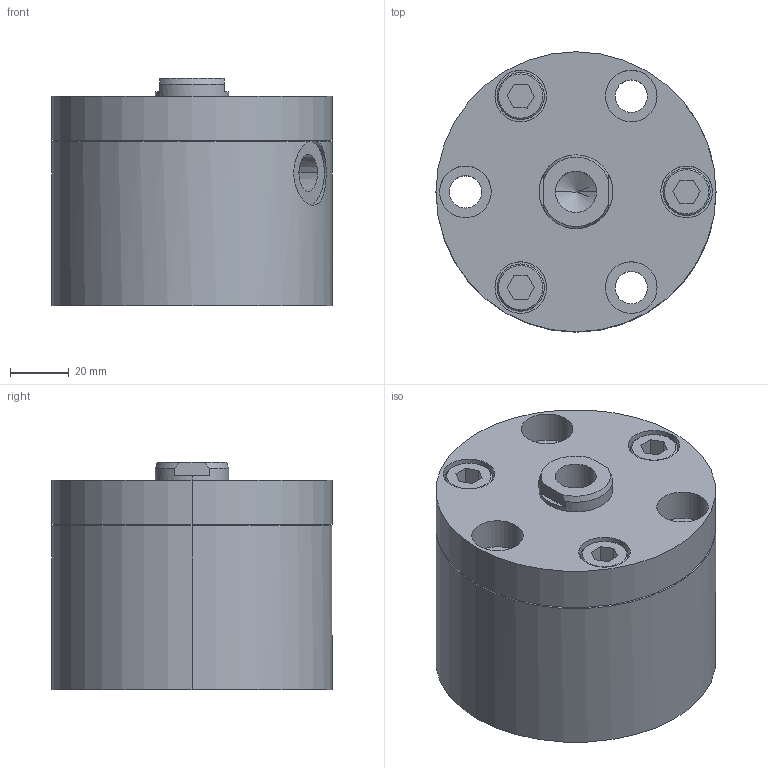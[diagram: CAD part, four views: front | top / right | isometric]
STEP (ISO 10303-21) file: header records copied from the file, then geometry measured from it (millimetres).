
FILE_DESCRIPTION (( 'STEP AP203' ), '1' );
FILE_NAME ('4360 522.STEP', '2016-01-28T12:19:47', ( '' ), ( '' ), 'SwSTEP 2.0', 'SolidWorks 2015', '' );
FILE_SCHEMA (( 'CONFIG_CONTROL_DESIGN' ));
Length unit declared in the file: millimetre
Products named in the file (1): 4360 522
Bounding box: 95 x 95 x 77 mm (x, y, z)
Volume: 460727.3 mm3; surface area: 51654.9 mm2
Topology: 1 solids, 1 shells, 112 faces, 255 edges, 162 vertices
Faces by surface type: cylinder 46, plane 45, cone 21
Entity records: 3405 total; most frequent: CARTESIAN_POINT 733, DIRECTION 576, ORIENTED_EDGE 498, EDGE_CURVE 249, AXIS2_PLACEMENT_3D 225, VERTEX_POINT 162, EDGE_LOOP 141, LINE 126
